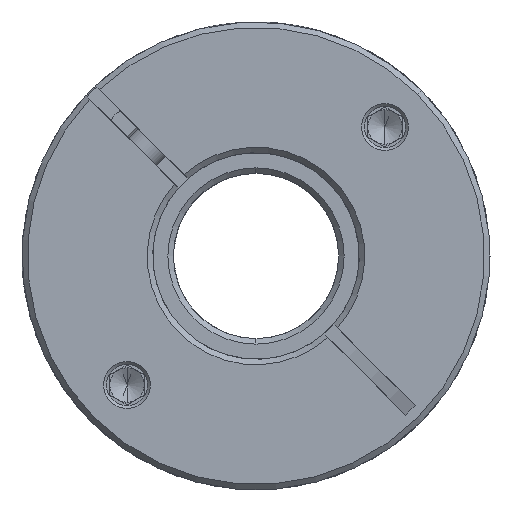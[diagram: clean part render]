
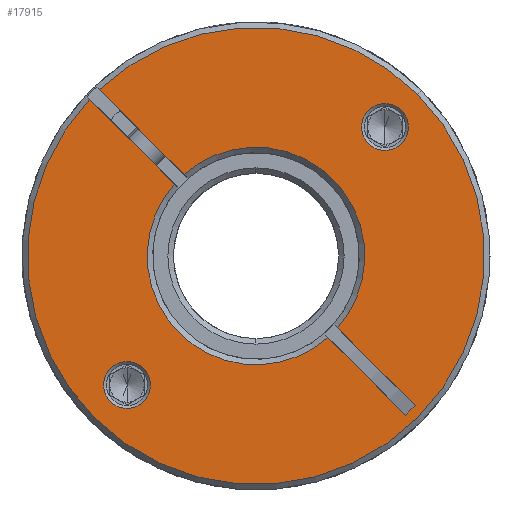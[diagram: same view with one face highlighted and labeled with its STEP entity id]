
A CAD part, front view. The second image highlights one B-rep face of the part: STEP entity #17915.
In plain terms, the highlighted planar face has unit normal (0, -1, 0).
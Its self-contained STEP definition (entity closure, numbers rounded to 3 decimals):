
#210 = CIRCLE ( 'NONE', #13624, 15.8 ) ;
#238 = CARTESIAN_POINT ( 'NONE',  ( -26.211, -67.045, 44.524 ) ) ;
#1069 = DIRECTION ( 'NONE',  ( 0., 1., 0. ) ) ;
#1103 = DIRECTION ( 'NONE',  ( 0., -1., 0. ) ) ;
#1148 = DIRECTION ( 'NONE',  ( 0.707, 0., -0.707 ) ) ;
#1174 = VERTEX_POINT ( 'NONE', #9864 ) ;
#1302 = ORIENTED_EDGE ( 'NONE', *, *, #11044, .T. ) ;
#1463 = DIRECTION ( 'NONE',  ( 0., 1., 0. ) ) ;
#1838 = EDGE_CURVE ( 'NONE', #7169, #9732, #7847, .T. ) ;
#2433 = VECTOR ( 'NONE', #10497, 1000. ) ;
#2516 = ORIENTED_EDGE ( 'NONE', *, *, #7167, .T. ) ;
#2679 = CARTESIAN_POINT ( 'NONE',  ( -2.028, -67.045, 68.707 ) ) ;
#2724 = CIRCLE ( 'NONE', #16632, 3.4 ) ;
#2755 = EDGE_CURVE ( 'NONE', #21311, #13189, #2724, .T. ) ;
#2830 = AXIS2_PLACEMENT_3D ( 'NONE', #17224, #17298, #7422 ) ;
#3272 = FACE_OUTER_BOUND ( 'NONE', #8550, .T. ) ;
#3376 = ORIENTED_EDGE ( 'NONE', *, *, #19118, .T. ) ;
#3439 = ORIENTED_EDGE ( 'NONE', *, *, #5157, .T. ) ;
#3572 = ORIENTED_EDGE ( 'NONE', *, *, #13392, .T. ) ;
#3960 = VERTEX_POINT ( 'NONE', #18414 ) ;
#4109 = DIRECTION ( 'NONE',  ( 0.707, 0., 0.707 ) ) ;
#4168 = EDGE_CURVE ( 'NONE', #19092, #9042, #5624, .T. ) ;
#4337 = VERTEX_POINT ( 'NONE', #17658 ) ;
#4566 = CARTESIAN_POINT ( 'NONE',  ( -13.178, -67.045, 79.857 ) ) ;
#4898 = DIRECTION ( 'NONE',  ( 0., 1., 0. ) ) ;
#5157 = EDGE_CURVE ( 'NONE', #9042, #16827, #14590, .T. ) ;
#5214 = CIRCLE ( 'NONE', #16993, 3.4 ) ;
#5221 = EDGE_CURVE ( 'NONE', #5856, #9732, #17407, .T. ) ;
#5301 = EDGE_CURVE ( 'NONE', #10167, #4337, #19240, .T. ) ;
#5486 = ORIENTED_EDGE ( 'NONE', *, *, #6128, .T. ) ;
#5556 = VECTOR ( 'NONE', #14697, 1000. ) ;
#5624 = CIRCLE ( 'NONE', #2830, 33.2 ) ;
#5856 = VERTEX_POINT ( 'NONE', #8162 ) ;
#5892 = CARTESIAN_POINT ( 'NONE',  ( -2.028, -67.045, 68.707 ) ) ;
#5977 = CARTESIAN_POINT ( 'NONE',  ( 16.003, -67.045, 86.738 ) ) ;
#6075 = CIRCLE ( 'NONE', #15696, 15.8 ) ;
#6128 = EDGE_CURVE ( 'NONE', #20682, #3960, #8326, .T. ) ;
#6292 = AXIS2_PLACEMENT_3D ( 'NONE', #19222, #1103, #9468 ) ;
#6353 = ORIENTED_EDGE ( 'NONE', *, *, #1838, .T. ) ;
#6460 = ORIENTED_EDGE ( 'NONE', *, *, #13119, .T. ) ;
#6632 = EDGE_CURVE ( 'NONE', #16001, #7169, #18654, .T. ) ;
#6868 = VECTOR ( 'NONE', #1148, 1000. ) ;
#7128 = ORIENTED_EDGE ( 'NONE', *, *, #6632, .T. ) ;
#7167 = EDGE_CURVE ( 'NONE', #4337, #10167, #5214, .T. ) ;
#7169 = VERTEX_POINT ( 'NONE', #14521 ) ;
#7422 = DIRECTION ( 'NONE',  ( 0.707, 0., 0.707 ) ) ;
#7552 = DIRECTION ( 'NONE',  ( 0.707, 0., 0.707 ) ) ;
#7847 = LINE ( 'NONE', #17141, #2433 ) ;
#8162 = CARTESIAN_POINT ( 'NONE',  ( 7.708, -67.045, 56.143 ) ) ;
#8245 = CARTESIAN_POINT ( 'NONE',  ( -21.473, -67.045, 49.262 ) ) ;
#8247 = CARTESIAN_POINT ( 'NONE',  ( 18.988, -67.045, 44.862 ) ) ;
#8266 = CARTESIAN_POINT ( 'NONE',  ( -26.908, -67.045, 90.758 ) ) ;
#8326 = CIRCLE ( 'NONE', #16704, 15.8 ) ;
#8550 = EDGE_LOOP ( 'NONE', ( #13171, #10560, #3439, #6460, #3572, #5486, #16509, #7128, #6353, #16914, #1302 ) ) ;
#8599 = DIRECTION ( 'NONE',  ( 0.707, 0., 0.707 ) ) ;
#8743 = CARTESIAN_POINT ( 'NONE',  ( -19.069, -67.045, 51.666 ) ) ;
#8932 = EDGE_LOOP ( 'NONE', ( #3376, #18639 ) ) ;
#9042 = VERTEX_POINT ( 'NONE', #238 ) ;
#9081 = DIRECTION ( 'NONE',  ( 0., 1., 0. ) ) ;
#9108 = VECTOR ( 'NONE', #15798, 1000. ) ;
#9468 = DIRECTION ( 'NONE',  ( 0.707, 0., 0.707 ) ) ;
#9472 = AXIS2_PLACEMENT_3D ( 'NONE', #9995, #4898, #13056 ) ;
#9732 = VERTEX_POINT ( 'NONE', #8247 ) ;
#9864 = CARTESIAN_POINT ( 'NONE',  ( -14.592, -67.045, 78.443 ) ) ;
#9975 = DIRECTION ( 'NONE',  ( 0.707, 0., 0.707 ) ) ;
#9995 = CARTESIAN_POINT ( 'NONE',  ( -21.473, -67.045, 49.262 ) ) ;
#10068 = CARTESIAN_POINT ( 'NONE',  ( -3.442, -67.045, 67.293 ) ) ;
#10167 = VERTEX_POINT ( 'NONE', #14580 ) ;
#10372 = CARTESIAN_POINT ( 'NONE',  ( -3.442, -67.045, 67.293 ) ) ;
#10426 = CIRCLE ( 'NONE', #9472, 3.4 ) ;
#10497 = DIRECTION ( 'NONE',  ( -0.707, 0., -0.707 ) ) ;
#10560 = ORIENTED_EDGE ( 'NONE', *, *, #4168, .T. ) ;
#10642 = DIRECTION ( 'NONE',  ( 0.707, 0., -0.707 ) ) ;
#10924 = CARTESIAN_POINT ( 'NONE',  ( -2.735, -67.045, 68. ) ) ;
#10994 = DIRECTION ( 'NONE',  ( 0., 1., 0. ) ) ;
#11044 = EDGE_CURVE ( 'NONE', #5856, #1174, #210, .T. ) ;
#11336 = CARTESIAN_POINT ( 'NONE',  ( 16.003, -67.045, 86.738 ) ) ;
#11493 = FACE_BOUND ( 'NONE', #8932, .T. ) ;
#12255 = AXIS2_PLACEMENT_3D ( 'NONE', #20512, #18765, #4109 ) ;
#12780 = DIRECTION ( 'NONE',  ( 0.707, 0., 0.707 ) ) ;
#12811 = PLANE ( 'NONE',  #6292 ) ;
#13056 = DIRECTION ( 'NONE',  ( 0.707, 0., 0.707 ) ) ;
#13071 = LINE ( 'NONE', #2679, #6868 ) ;
#13119 = EDGE_CURVE ( 'NONE', #16827, #18846, #20047, .T. ) ;
#13171 = ORIENTED_EDGE ( 'NONE', *, *, #19153, .F. ) ;
#13189 = VERTEX_POINT ( 'NONE', #8743 ) ;
#13392 = EDGE_CURVE ( 'NONE', #18846, #20682, #13071, .T. ) ;
#13499 = EDGE_CURVE ( 'NONE', #3960, #16001, #6075, .T. ) ;
#13624 = AXIS2_PLACEMENT_3D ( 'NONE', #15739, #9081, #7552 ) ;
#13647 = DIRECTION ( 'NONE',  ( 0., -1., 0. ) ) ;
#13763 = CARTESIAN_POINT ( 'NONE',  ( -23.878, -67.045, 46.858 ) ) ;
#13805 = VECTOR ( 'NONE', #10642, 1000. ) ;
#14310 = LINE ( 'NONE', #10068, #5556 ) ;
#14521 = CARTESIAN_POINT ( 'NONE',  ( 20.402, -67.045, 46.277 ) ) ;
#14580 = CARTESIAN_POINT ( 'NONE',  ( 13.599, -67.045, 84.334 ) ) ;
#14590 = CIRCLE ( 'NONE', #12255, 33.2 ) ;
#14697 = DIRECTION ( 'NONE',  ( 0.707, 0., -0.707 ) ) ;
#14992 = DIRECTION ( 'NONE',  ( 0., 1., 0. ) ) ;
#15133 = DIRECTION ( 'NONE',  ( 0.707, 0., 0.707 ) ) ;
#15696 = AXIS2_PLACEMENT_3D ( 'NONE', #18256, #14992, #15133 ) ;
#15739 = CARTESIAN_POINT ( 'NONE',  ( -2.735, -67.045, 68. ) ) ;
#15798 = DIRECTION ( 'NONE',  ( 0.707, 0., -0.707 ) ) ;
#16001 = VERTEX_POINT ( 'NONE', #18997 ) ;
#16305 = DIRECTION ( 'NONE',  ( 0.707, 0., 0.707 ) ) ;
#16509 = ORIENTED_EDGE ( 'NONE', *, *, #13499, .T. ) ;
#16632 = AXIS2_PLACEMENT_3D ( 'NONE', #8245, #19869, #9975 ) ;
#16704 = AXIS2_PLACEMENT_3D ( 'NONE', #10924, #10994, #12780 ) ;
#16827 = VERTEX_POINT ( 'NONE', #18737 ) ;
#16914 = ORIENTED_EDGE ( 'NONE', *, *, #5221, .F. ) ;
#16954 = AXIS2_PLACEMENT_3D ( 'NONE', #5977, #1069, #20763 ) ;
#16993 = AXIS2_PLACEMENT_3D ( 'NONE', #11336, #1463, #16305 ) ;
#17141 = CARTESIAN_POINT ( 'NONE',  ( 18.988, -67.045, 44.862 ) ) ;
#17224 = CARTESIAN_POINT ( 'NONE',  ( -2.735, -67.045, 68. ) ) ;
#17298 = DIRECTION ( 'NONE',  ( 0., -1., 0. ) ) ;
#17407 = LINE ( 'NONE', #10372, #13805 ) ;
#17658 = CARTESIAN_POINT ( 'NONE',  ( 18.407, -67.045, 89.142 ) ) ;
#17915 = ADVANCED_FACE ( 'NONE', ( #21034, #11493, #3272 ), #12811, .T. ) ;
#18256 = CARTESIAN_POINT ( 'NONE',  ( -2.735, -67.045, 68. ) ) ;
#18414 = CARTESIAN_POINT ( 'NONE',  ( 8.437, -67.045, 79.172 ) ) ;
#18639 = ORIENTED_EDGE ( 'NONE', *, *, #2755, .T. ) ;
#18654 = LINE ( 'NONE', #5892, #9108 ) ;
#18737 = CARTESIAN_POINT ( 'NONE',  ( 20.741, -67.045, 91.476 ) ) ;
#18765 = DIRECTION ( 'NONE',  ( 0., -1., 0. ) ) ;
#18784 = AXIS2_PLACEMENT_3D ( 'NONE', #20239, #13647, #8599 ) ;
#18846 = VERTEX_POINT ( 'NONE', #18977 ) ;
#18977 = CARTESIAN_POINT ( 'NONE',  ( -25.493, -67.045, 92.172 ) ) ;
#18997 = CARTESIAN_POINT ( 'NONE',  ( 9.122, -67.045, 57.557 ) ) ;
#19092 = VERTEX_POINT ( 'NONE', #8266 ) ;
#19118 = EDGE_CURVE ( 'NONE', #13189, #21311, #10426, .T. ) ;
#19153 = EDGE_CURVE ( 'NONE', #19092, #1174, #14310, .T. ) ;
#19222 = CARTESIAN_POINT ( 'NONE',  ( -2.735, -67.045, 68. ) ) ;
#19240 = CIRCLE ( 'NONE', #16954, 3.4 ) ;
#19869 = DIRECTION ( 'NONE',  ( 0., 1., 0. ) ) ;
#20047 = CIRCLE ( 'NONE', #18784, 33.2 ) ;
#20239 = CARTESIAN_POINT ( 'NONE',  ( -2.735, -67.045, 68. ) ) ;
#20493 = ORIENTED_EDGE ( 'NONE', *, *, #5301, .T. ) ;
#20512 = CARTESIAN_POINT ( 'NONE',  ( -2.735, -67.045, 68. ) ) ;
#20682 = VERTEX_POINT ( 'NONE', #4566 ) ;
#20763 = DIRECTION ( 'NONE',  ( 0.707, 0., 0.707 ) ) ;
#20881 = EDGE_LOOP ( 'NONE', ( #2516, #20493 ) ) ;
#21034 = FACE_BOUND ( 'NONE', #20881, .T. ) ;
#21311 = VERTEX_POINT ( 'NONE', #13763 ) ;
